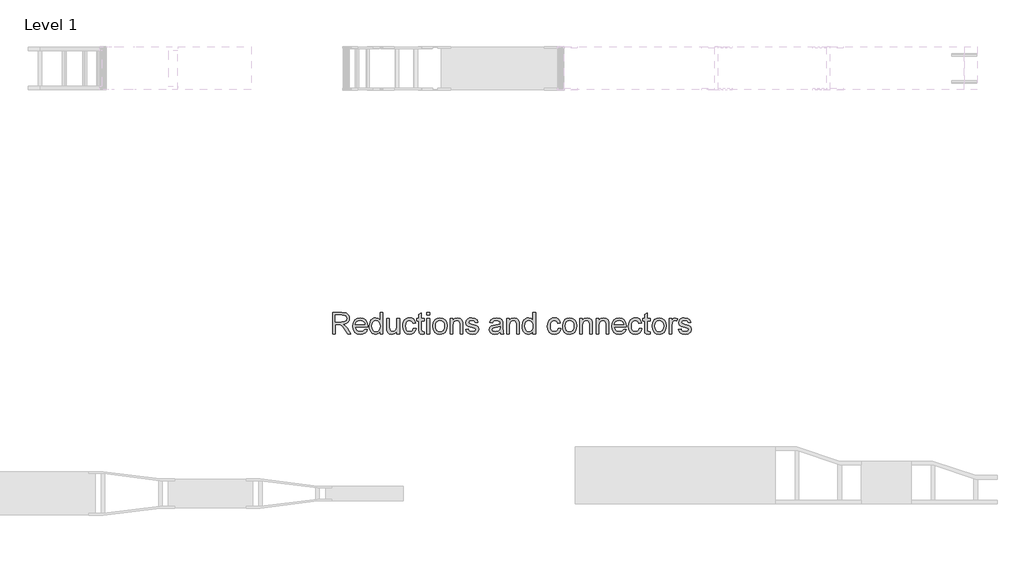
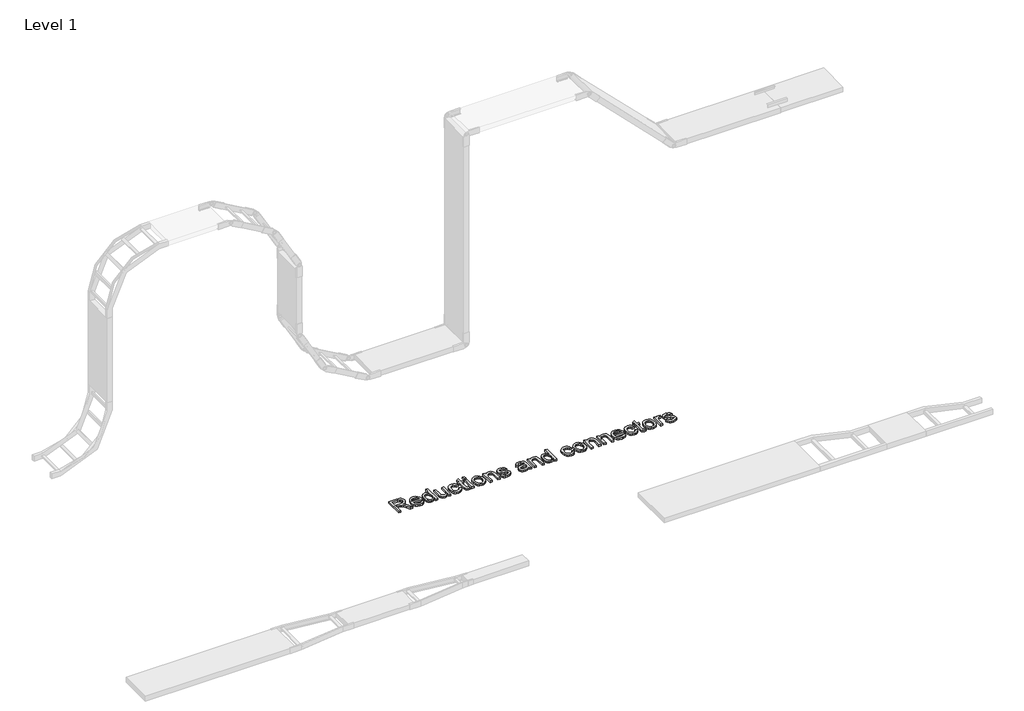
# One storey, part 64 of 106: 1 proxy.
"""IFC4 building model written with IfcOpenShell, lengths in millimetres."""

from ifc_helpers import new_model, si_unit, origin, origin_with_axes, place, context, project, spatial, polyline, outline, extrude, element, save

model = new_model("IFC4")

# Units and contexts
model_context = context("Model", 3, world=origin())
ifc_project = project(units=[si_unit("LENGTHUNIT", "METRE", prefix="MILLI")], contexts=[model_context])

# Site, building, storey
site = spatial("IfcSite", under=ifc_project)
building = spatial("IfcBuilding", under=site)
storey = spatial("IfcBuildingStorey", under=building, Name="Level 1", Elevation=0.0)

# Proxy
placement = place(None, origin())
element("IfcBuildingElementProxy", 1, Name="150mm Arial 2", ObjectType="150mm Arial 2", at=placement, inside=storey, context=model_context, shape_type="SweptSolid", body=[
    extrude(outline(polyline([(41668.5420892, 54347.8476348), (41668.5420892, 54498.5321), (41733.4732613, 54498.5321), (41763.6211908, 54494.467004), (41772.9010141, 54488.8384094), (41780.1023042, 54480.0828179), (41784.7238218, 54469.2257006), (41786.2643276, 54457.2925283), (41783.7121463, 54442.4484898), (41776.0556023, 54430.1428371), (41763.0647693, 54421.1205312), (41744.5097212, 54416.1265331), (41755.2150872, 54408.0699174), (41770.48219, 54388.6825362), (41795.6085303, 54347.8476348), (41773.7195516, 54347.8476348), (41754.1114412, 54379.0808162), (41739.9479844, 54399.7557843), (41729.9967765, 54409.5230513), (41721.0388499, 54413.1099007), (41710.1127546, 54413.7720883), (41687.3776473, 54413.7720883), (41687.3776473, 54347.8476348), (41668.5420892, 54347.8476348)]), holes=[polyline([(41687.3776473, 54432.6076465), (41729.536924, 54432.6076465), (41751.0396266, 54435.2747909), (41763.2533088, 54443.8096532), (41767.4287695, 54456.5935526), (41765.4376082, 54465.7814054), (41759.4641243, 54473.1850305), (41749.186421, 54478.068664), (41734.2826017, 54479.6965419), (41687.3776473, 54479.6965419), (41687.3776473, 54432.6076465)])]), origin_with_axes(), (0.0, 0.0, 1.0), 15.0),
    extrude(outline(polyline([(41894.3480578, 54380.8098615), (41912.815734, 54378.4554168), (41906.1616684, 54364.5402803), (41895.5436743, 54354.1384169), (41881.200875, 54347.6544967), (41863.3723938, 54345.49319), (41841.2718829, 54349.2225937), (41824.2665377, 54360.4108049), (41813.4232159, 54378.3312566), (41809.8087753, 54402.2573819), (41813.4600041, 54426.988249), (41824.4136905, 54445.4835163), (41841.1891095, 54457.0166168), (41862.305536, 54460.8609837), (41882.7643735, 54457.0258139), (41899.1121296, 54445.5203045), (41909.8312913, 54427.0618254), (41913.4043452, 54402.3677465), (41913.2939806, 54397.2909749), (41828.6443335, 54397.2909749), (41831.9046876, 54383.1918975), (41839.4784582, 54372.8268223), (41850.409152, 54366.4532667), (41863.7402758, 54364.3287482), (41882.207952, 54368.2650855), (41894.3480578, 54380.8098615)]), holes=[polyline([(41828.6443335, 54416.1265331), (41894.568787, 54416.1265331), (41892.0212042, 54426.0777411), (41887.0272061, 54433.1962577), (41876.0459285, 54439.8181336), (41862.2319596, 54442.0254255), (41849.5354323, 54440.2641905), (41839.0369998, 54434.9804853), (41831.7391407, 54426.7445272), (41828.6443335, 54416.1265331)])]), origin_with_axes(), (0.0, 0.0, 1.0), 15.0),
    extrude(outline(polyline([(42000.5188016, 54347.8476348), (42000.5188016, 54365.6163351), (41988.056799, 54350.5239763), (41970.8307246, 54345.49319), (41958.6538306, 54347.3142059), (41947.5070061, 54352.7772535), (41938.0708329, 54361.5006553), (41931.0258927, 54373.1027337), (41926.6388999, 54387.1144392), (41925.176569, 54403.0667223), (41930.5660402, 54433.0491049), (41937.2982807, 54444.9408904), (41946.7160598, 54453.6872848), (41958.1066061, 54459.067559), (41970.7571482, 54460.8609837), (41988.1211784, 54455.7290299), (42000.5188016, 54442.3933075), (42000.5188016, 54498.5321), (42019.3543598, 54498.5321), (42019.3543598, 54347.8476348), (42000.5188016, 54347.8476348)]), holes=[polyline([(41944.0121271, 54403.1402987), (41946.1366457, 54386.1027638), (41952.5102012, 54373.9856505), (41961.7716305, 54366.7429738), (41972.55977, 54364.3287482), (41983.343311, 54366.6326092), (41992.3702154, 54373.5441921), (41998.4816551, 54385.1922558), (42000.5188016, 54401.7055589), (41998.4448669, 54419.7593678), (41992.2230626, 54432.2765527), (41982.9662319, 54439.5882073), (41971.7872178, 54442.0254255), (41960.8887137, 54439.6847764), (41951.9583782, 54432.6628288), (41945.9986899, 54420.6008979), (41944.0121271, 54403.1402987)])]), origin_with_axes(), (0.0, 0.0, 1.0), 15.0),
    extrude(outline(polyline([(42118.2410401, 54347.8476348), (42118.2410401, 54366.8671339), (42103.4889721, 54350.836676), (42084.2487437, 54345.49319), (42066.5352256, 54349.2455864), (42054.3215434, 54358.6633654), (42048.711343, 54372.5325167), (42047.607697, 54390.0436996), (42047.607697, 54458.5065389), (42066.4432551, 54458.5065389), (42066.4432551, 54398.9096557), (42067.5836893, 54379.7062156), (42075.0332997, 54368.4306324), (42089.0679978, 54364.3287482), (42104.7949531, 54368.5226029), (42115.1876195, 54379.9453389), (42118.2410401, 54400.9330067), (42118.2410401, 54458.5065389), (42137.0765982, 54458.5065389), (42137.0765982, 54347.8476348), (42118.2410401, 54347.8476348)])), origin_with_axes(), (0.0, 0.0, 1.0), 15.0),
    extrude(outline(polyline([(42233.6088338, 54387.8731959), (42252.4443919, 54385.5187511), (42247.1928764, 54368.7663247), (42237.3244419, 54356.1065856), (42223.7679904, 54348.1465389), (42207.4524239, 54345.49319), (42187.4166507, 54349.1950026), (42171.7494763, 54360.3004403), (42161.6373199, 54378.3220596), (42158.2666011, 54402.7724167), (42159.7059394, 54419.5340401), (42164.0239544, 54434.0607803), (42171.2896238, 54445.7916175), (42181.5719255, 54454.1655314), (42193.8729797, 54459.1871206), (42207.1949065, 54460.8609837), (42223.1104013, 54458.5617212), (42235.8345198, 54451.6639338), (42244.9625918, 54440.5355035), (42250.0899471, 54425.5443122), (42231.254389, 54423.1898674), (42222.5171916, 54437.2981419), (42207.3420593, 54442.0254255), (42195.1697638, 54439.6985719), (42185.5082629, 54432.7180111), (42179.2036852, 54420.7066639), (42177.1021593, 54403.2874515), (42179.1576999, 54385.6337142), (42185.3243219, 54373.5809803), (42194.8110788, 54366.6418062), (42206.8270245, 54364.3287482), (42216.5804959, 54365.772685), (42224.5773308, 54370.1044955), (42230.3944648, 54377.4345442), (42233.6088338, 54387.8731959)])), origin_with_axes(), (0.0, 0.0, 1.0), 15.0),
    extrude(outline(polyline([(42308.9510664, 54363.556196), (42311.3055111, 54347.2958118), (42297.2156307, 54345.49319), (42281.4334931, 54348.620187), (42273.5608184, 54356.8239555), (42271.2799501, 54378.1978994), (42271.2799501, 54439.6709808), (42257.1532814, 54439.6709808), (42257.1532814, 54458.5065389), (42271.2799501, 54458.5065389), (42271.2799501, 54485.3987128), (42290.1155082, 54496.4719608), (42290.1155082, 54458.5065389), (42308.9510664, 54458.5065389), (42308.9510664, 54439.6709808), (42290.1155082, 54439.6709808), (42290.1155082, 54378.7497224), (42291.1087896, 54369.0376377), (42294.3277571, 54365.597941), (42300.7472979, 54364.3287482), (42308.9510664, 54363.556196)])), origin_with_axes(), (0.0, 0.0, 1.0), 15.0),
    extrude(outline(polyline([(42327.7866245, 54479.6965419), (42327.7866245, 54498.5321), (42346.6221827, 54498.5321), (42346.6221827, 54479.6965419), (42327.7866245, 54479.6965419)])), origin_with_axes(), (0.0, 0.0, 1.0), 15.0),
    extrude(outline(polyline([(42327.7866245, 54347.8476348), (42327.7866245, 54458.5065389), (42346.6221827, 54458.5065389), (42346.6221827, 54347.8476348), (42327.7866245, 54347.8476348)])), origin_with_axes(), (0.0, 0.0, 1.0), 15.0),
    extrude(outline(polyline([(42370.1666304, 54403.1770869), (42374.2409235, 54429.8577286), (42386.4638027, 54448.6105133), (42401.5653587, 54457.7983661), (42419.6467587, 54460.8609837), (42439.4342115, 54457.13158), (42455.2393417, 54445.9433688), (42465.5998184, 54428.179267), (42469.0533107, 54404.7221912), (42467.5266004, 54385.693495), (42462.9464695, 54371.2081415), (42455.4462754, 54360.3602211), (42445.1593751, 54352.2438246), (42432.9410943, 54347.1808487), (42419.6467587, 54345.49319), (42399.6201826, 54349.2087982), (42383.8334465, 54360.3556226), (42373.5833344, 54378.492205), (42370.1666304, 54403.1770869)]), holes=[polyline([(42389.0021885, 54403.2138751), (42391.1818893, 54386.1671431), (42397.7209918, 54374.0224387), (42407.5618352, 54366.7521708), (42419.6467587, 54364.3287482), (42431.6765, 54366.7659664), (42441.4989492, 54374.077621), (42448.0380517, 54386.3832738), (42450.2177525, 54403.8024862), (42448.0242561, 54420.3525775), (42441.4437669, 54432.331735), (42431.6075221, 54439.6020029), (42419.6467587, 54442.0254255), (42407.5618352, 54439.6112), (42397.7209918, 54432.3685232), (42391.1818893, 54420.25141), (42389.0021885, 54403.2138751)])]), origin_with_axes(), (0.0, 0.0, 1.0), 15.0),
    extrude(outline(polyline([(42490.2433136, 54347.8476348), (42490.2433136, 54458.5065389), (42509.0788717, 54458.5065389), (42509.0788717, 54443.0554951), (42523.4814519, 54456.4096116), (42543.1447445, 54460.8609837), (42560.931839, 54457.2741342), (42573.0719448, 54447.8563552), (42578.7189334, 54434.0055981), (42579.7122148, 54415.7954393), (42579.7122148, 54347.8476348), (42560.8766567, 54347.8476348), (42560.8766567, 54413.2570535), (42558.7061529, 54429.9221079), (42551.0358133, 54438.7328817), (42538.1047612, 54442.0254255), (42527.0728998, 54440.1768185), (42517.6689163, 54434.6309974), (42511.2263829, 54423.9164343), (42509.0788717, 54406.5616012), (42509.0788717, 54347.8476348), (42490.2433136, 54347.8476348)])), origin_with_axes(), (0.0, 0.0, 1.0), 15.0),
    extrude(outline(polyline([(42598.547773, 54380.8098615), (42617.3833311, 54383.1643063), (42620.3539782, 54375.1076906), (42626.1021344, 54369.1847905), (42646.0781267, 54364.3287482), (42665.2815669, 54368.7801203), (42671.5355608, 54379.227969), (42669.9628653, 54384.028829), (42665.2447787, 54387.6892549), (42645.8573975, 54393.060332), (42617.4936957, 54402.275776), (42605.1144666, 54413.0363243), (42600.9022177, 54428.2298507), (42604.2867321, 54442.2645488), (42613.5205702, 54452.988309), (42625.4951291, 54458.5617212), (42641.700331, 54460.8609837), (42664.6193793, 54457.1637696), (42679.1875063, 54447.1573794), (42685.6622294, 54430.2532017), (42666.8266713, 54427.8987569), (42659.7449429, 54438.2914233), (42643.171859, 54442.0254255), (42625.1456412, 54438.4569702), (42619.7377759, 54430.1428371), (42621.9818561, 54424.6613954), (42629.0084022, 54420.5043288), (42645.2319982, 54416.4944151), (42672.8783301, 54407.628459), (42685.7174117, 54397.5852805), (42690.371119, 54381.2145317), (42684.9080713, 54363.188314), (42669.1443278, 54350.1101091), (42645.8206093, 54345.49319), (42626.8287013, 54347.7188761), (42612.9687472, 54354.3959343), (42603.716515, 54365.4507882), (42598.547773, 54380.8098615)])), origin_with_axes(), (0.0, 0.0, 1.0), 15.0),
    extrude(outline(polyline([(42841.0555842, 54361.9743034), (42822.7902431, 54349.2087982), (42802.6119157, 54345.49319), (42786.8711648, 54347.7280731), (42775.2598894, 54354.4327225), (42768.099986, 54364.6138567), (42765.7133516, 54377.2781944), (42769.3185951, 54392.1774152), (42778.7915565, 54402.9931459), (42791.980126, 54409.1735634), (42808.2772984, 54412.0062547), (42840.9452196, 54418.4809779), (42841.0555842, 54422.6748326), (42839.7588002, 54431.0809362), (42835.8684481, 54436.580772), (42827.1680389, 54440.6642622), (42815.0463271, 54442.0254255), (42795.9900398, 54438.4017879), (42786.9033545, 54425.5443122), (42768.0677963, 54427.8987569), (42776.2163825, 54446.2928567), (42792.6239195, 54457.0717991), (42817.4743483, 54460.8609837), (42840.3014261, 54457.5132575), (42853.19569, 54449.107154), (42858.9714374, 54436.3232546), (42859.8911423, 54419.8421412), (42859.8911423, 54396.4080581), (42860.8476355, 54363.6849547), (42864.6000319, 54347.8476348), (42845.7644737, 54347.8476348), (42841.0555842, 54361.9743034)]), holes=[polyline([(42841.0555842, 54399.6454197), (42810.6685314, 54393.8696724), (42794.4633295, 54390.8162518), (42787.1240837, 54385.8498449), (42784.5489097, 54378.6025696), (42790.1591102, 54368.4122383), (42806.6218294, 54364.3287482), (42825.6781168, 54368.8353026), (42837.9653754, 54379.7430038), (42840.9452196, 54394.3111308), (42841.0555842, 54399.6454197)])]), origin_with_axes(), (0.0, 0.0, 1.0), 15.0),
    extrude(outline(polyline([(42885.7900348, 54347.8476348), (42885.7900348, 54458.5065389), (42904.625593, 54458.5065389), (42904.625593, 54443.0554951), (42919.0281731, 54456.4096116), (42938.6914657, 54460.8609837), (42956.4785602, 54457.2741342), (42968.618666, 54447.8563552), (42974.2656546, 54434.0055981), (42975.258936, 54415.7954393), (42975.258936, 54347.8476348), (42956.4233779, 54347.8476348), (42956.4233779, 54413.2570535), (42954.2528741, 54429.9221079), (42946.5825345, 54438.7328817), (42933.6514824, 54442.0254255), (42922.619621, 54440.1768185), (42913.2156375, 54434.6309974), (42906.7731041, 54423.9164343), (42904.625593, 54406.5616012), (42904.625593, 54347.8476348), (42885.7900348, 54347.8476348)])), origin_with_axes(), (0.0, 0.0, 1.0), 15.0),
    extrude(outline(polyline([(43069.4367268, 54347.8476348), (43069.4367268, 54365.6163351), (43056.9747242, 54350.5239763), (43039.7486498, 54345.49319), (43027.5717557, 54347.3142059), (43016.4249313, 54352.7772535), (43006.9887581, 54361.5006553), (42999.9438179, 54373.1027337), (42995.5568251, 54387.1144392), (42994.0944942, 54403.0667223), (42999.4839654, 54433.0491049), (43006.2162059, 54444.9408904), (43015.633985, 54453.6872848), (43027.0245313, 54459.067559), (43039.6750734, 54460.8609837), (43057.0391036, 54455.7290299), (43069.4367268, 54442.3933075), (43069.4367268, 54498.5321), (43088.2722849, 54498.5321), (43088.2722849, 54347.8476348), (43069.4367268, 54347.8476348)]), holes=[polyline([(43012.9300523, 54403.1402987), (43015.0545709, 54386.1027638), (43021.4281264, 54373.9856505), (43030.6895557, 54366.7429738), (43041.4776952, 54364.3287482), (43052.2612361, 54366.6326092), (43061.2881406, 54373.5441921), (43067.3995802, 54385.1922558), (43069.4367268, 54401.7055589), (43067.362792, 54419.7593678), (43061.1409878, 54432.2765527), (43051.8841571, 54439.5882073), (43040.705143, 54442.0254255), (43029.8066389, 54439.6847764), (43020.8763034, 54432.6628288), (43014.9166151, 54420.6008979), (43012.9300523, 54403.1402987)])]), origin_with_axes(), (0.0, 0.0, 1.0), 15.0),
    extrude(outline(polyline([(43246.0200845, 54387.8731959), (43264.8556426, 54385.5187511), (43259.6041272, 54368.7663247), (43249.7356926, 54356.1065856), (43236.1792411, 54348.1465389), (43219.8636746, 54345.49319), (43199.8279015, 54349.1950026), (43184.160727, 54360.3004403), (43174.0485706, 54378.3220596), (43170.6778519, 54402.7724167), (43172.1171902, 54419.5340401), (43176.4352051, 54434.0607803), (43183.7008745, 54445.7916175), (43193.9831763, 54454.1655314), (43206.2842305, 54459.1871206), (43219.6061572, 54460.8609837), (43235.521652, 54458.5617212), (43248.2457706, 54451.6639338), (43257.3738426, 54440.5355035), (43262.5011979, 54425.5443122), (43243.6656397, 54423.1898674), (43234.9284423, 54437.2981419), (43219.75331, 54442.0254255), (43207.5810145, 54439.6985719), (43197.9195136, 54432.7180111), (43191.6149359, 54420.7066639), (43189.51341, 54403.2874515), (43191.5689507, 54385.6337142), (43197.7355726, 54373.5809803), (43207.2223296, 54366.6418062), (43219.2382752, 54364.3287482), (43228.9917466, 54365.772685), (43236.9885815, 54370.1044955), (43242.8057155, 54377.4345442), (43246.0200845, 54387.8731959)])), origin_with_axes(), (0.0, 0.0, 1.0), 15.0),
    extrude(outline(polyline([(43276.6278665, 54403.1770869), (43280.7021596, 54429.8577286), (43292.9250389, 54448.6105133), (43308.0265948, 54457.7983661), (43326.1079948, 54460.8609837), (43345.8954476, 54457.13158), (43361.7005779, 54445.9433688), (43372.0610546, 54428.179267), (43375.5145468, 54404.7221912), (43373.9878365, 54385.693495), (43369.4077057, 54371.2081415), (43361.9075115, 54360.3602211), (43351.6206112, 54352.2438246), (43339.4023304, 54347.1808487), (43326.1079948, 54345.49319), (43306.0814187, 54349.2087982), (43290.2946826, 54360.3556226), (43280.0445705, 54378.492205), (43276.6278665, 54403.1770869)]), holes=[polyline([(43295.4634246, 54403.2138751), (43297.6431255, 54386.1671431), (43304.1822279, 54374.0224387), (43314.0230713, 54366.7521708), (43326.1079948, 54364.3287482), (43338.1377361, 54366.7659664), (43347.9601853, 54374.077621), (43354.4992878, 54386.3832738), (43356.6789886, 54403.8024862), (43354.4854922, 54420.3525775), (43347.905003, 54432.331735), (43338.0687582, 54439.6020029), (43326.1079948, 54442.0254255), (43314.0230713, 54439.6112), (43304.1822279, 54432.3685232), (43297.6431255, 54420.25141), (43295.4634246, 54403.2138751)])]), origin_with_axes(), (0.0, 0.0, 1.0), 15.0),
    extrude(outline(polyline([(43396.7045497, 54347.8476348), (43396.7045497, 54458.5065389), (43415.5401079, 54458.5065389), (43415.5401079, 54443.0554951), (43429.942688, 54456.4096116), (43449.6059806, 54460.8609837), (43467.3930751, 54457.2741342), (43479.5331809, 54447.8563552), (43485.1801695, 54434.0055981), (43486.1734509, 54415.7954393), (43486.1734509, 54347.8476348), (43467.3378928, 54347.8476348), (43467.3378928, 54413.2570535), (43465.167389, 54429.9221079), (43457.4970494, 54438.7328817), (43444.5659973, 54442.0254255), (43433.5341359, 54440.1768185), (43424.1301524, 54434.6309974), (43417.687619, 54423.9164343), (43415.5401079, 54406.5616012), (43415.5401079, 54347.8476348), (43396.7045497, 54347.8476348)])), origin_with_axes(), (0.0, 0.0, 1.0), 15.0),
    extrude(outline(polyline([(43512.0723434, 54347.8476348), (43512.0723434, 54458.5065389), (43530.9079015, 54458.5065389), (43530.9079015, 54443.0554951), (43545.3104817, 54456.4096116), (43564.9737743, 54460.8609837), (43582.7608688, 54457.2741342), (43594.9009746, 54447.8563552), (43600.5479632, 54434.0055981), (43601.5412446, 54415.7954393), (43601.5412446, 54347.8476348), (43582.7056865, 54347.8476348), (43582.7056865, 54413.2570535), (43580.5351827, 54429.9221079), (43572.8648431, 54438.7328817), (43559.933791, 54442.0254255), (43548.9019296, 54440.1768185), (43539.4979461, 54434.6309974), (43533.0554127, 54423.9164343), (43530.9079015, 54406.5616012), (43530.9079015, 54347.8476348), (43512.0723434, 54347.8476348)])), origin_with_axes(), (0.0, 0.0, 1.0), 15.0),
    extrude(outline(polyline([(43704.9160853, 54380.8098615), (43723.3837614, 54378.4554168), (43716.7296958, 54364.5402803), (43706.1117017, 54354.1384169), (43691.7689025, 54347.6544967), (43673.9404213, 54345.49319), (43651.8399104, 54349.2225937), (43634.8345652, 54360.4108049), (43623.9912434, 54378.3312566), (43620.3768028, 54402.2573819), (43624.0280316, 54426.988249), (43634.981718, 54445.4835163), (43651.757137, 54457.0166168), (43672.8735635, 54460.8609837), (43693.3324009, 54457.0258139), (43709.6801571, 54445.5203045), (43720.3993187, 54427.0618254), (43723.9723726, 54402.3677465), (43723.862008, 54397.2909749), (43639.2123609, 54397.2909749), (43642.4727151, 54383.1918975), (43650.0464857, 54372.8268223), (43660.9771795, 54366.4532667), (43674.3083033, 54364.3287482), (43692.7759794, 54368.2650855), (43704.9160853, 54380.8098615)]), holes=[polyline([(43639.2123609, 54416.1265331), (43705.1368145, 54416.1265331), (43702.5892316, 54426.0777411), (43697.5952336, 54433.1962577), (43686.613956, 54439.8181336), (43672.7999871, 54442.0254255), (43660.1034597, 54440.2641905), (43649.6050273, 54434.9804853), (43642.3071682, 54426.7445272), (43639.2123609, 54416.1265331)])]), origin_with_axes(), (0.0, 0.0, 1.0), 15.0),
    extrude(outline(polyline([(43813.4412738, 54387.8731959), (43832.276832, 54385.5187511), (43827.0253165, 54368.7663247), (43817.156882, 54356.1065856), (43803.6004305, 54348.1465389), (43787.284864, 54345.49319), (43767.2490908, 54349.1950026), (43751.5819164, 54360.3004403), (43741.46976, 54378.3220596), (43738.0990412, 54402.7724167), (43739.5383795, 54419.5340401), (43743.8563945, 54434.0607803), (43751.1220639, 54445.7916175), (43761.4043656, 54454.1655314), (43773.7054198, 54459.1871206), (43787.0273466, 54460.8609837), (43802.9428414, 54458.5617212), (43815.6669599, 54451.6639338), (43824.7950319, 54440.5355035), (43829.9223872, 54425.5443122), (43811.0868291, 54423.1898674), (43802.3496317, 54437.2981419), (43787.1744994, 54442.0254255), (43775.0022039, 54439.6985719), (43765.340703, 54432.7180111), (43759.0361253, 54420.7066639), (43756.9345994, 54403.2874515), (43758.99014, 54385.6337142), (43765.156762, 54373.5809803), (43774.6435189, 54366.6418062), (43786.6594646, 54364.3287482), (43796.412936, 54365.772685), (43804.4097709, 54370.1044955), (43810.2269049, 54377.4345442), (43813.4412738, 54387.8731959)])), origin_with_axes(), (0.0, 0.0, 1.0), 15.0),
    extrude(outline(polyline([(43888.7835065, 54363.556196), (43891.1379512, 54347.2958118), (43877.0480708, 54345.49319), (43861.2659332, 54348.620187), (43853.3932585, 54356.8239555), (43851.1123901, 54378.1978994), (43851.1123901, 54439.6709808), (43836.9857215, 54439.6709808), (43836.9857215, 54458.5065389), (43851.1123901, 54458.5065389), (43851.1123901, 54485.3987128), (43869.9479483, 54496.4719608), (43869.9479483, 54458.5065389), (43888.7835065, 54458.5065389), (43888.7835065, 54439.6709808), (43869.9479483, 54439.6709808), (43869.9479483, 54378.7497224), (43870.9412297, 54369.0376377), (43874.1601971, 54365.597941), (43880.579738, 54364.3287482), (43888.7835065, 54363.556196)])), origin_with_axes(), (0.0, 0.0, 1.0), 15.0),
    extrude(outline(polyline([(43902.9101751, 54403.1770869), (43906.9844682, 54429.8577286), (43919.2073475, 54448.6105133), (43934.3089034, 54457.7983661), (43952.3903034, 54460.8609837), (43972.1777562, 54457.13158), (43987.9828865, 54445.9433688), (43998.3433631, 54428.179267), (44001.7968554, 54404.7221912), (44000.2701451, 54385.693495), (43995.6900143, 54371.2081415), (43988.1898201, 54360.3602211), (43977.9029198, 54352.2438246), (43965.684639, 54347.1808487), (43952.3903034, 54345.49319), (43932.3637273, 54349.2087982), (43916.5769912, 54360.3556226), (43906.3268791, 54378.492205), (43902.9101751, 54403.1770869)]), holes=[polyline([(43921.7457332, 54403.2138751), (43923.925434, 54386.1671431), (43930.4645365, 54374.0224387), (43940.3053799, 54366.7521708), (43952.3903034, 54364.3287482), (43964.4200447, 54366.7659664), (43974.2424939, 54374.077621), (43980.7815964, 54386.3832738), (43982.9612972, 54403.8024862), (43980.7678008, 54420.3525775), (43974.1873116, 54432.331735), (43964.3510668, 54439.6020029), (43952.3903034, 54442.0254255), (43940.3053799, 54439.6112), (43930.4645365, 54432.3685232), (43923.925434, 54420.25141), (43921.7457332, 54403.2138751)])]), origin_with_axes(), (0.0, 0.0, 1.0), 15.0),
    extrude(outline(polyline([(44022.9868583, 54347.8476348), (44022.9868583, 54458.5065389), (44039.4679717, 54458.5065389), (44039.4679717, 54442.1357901), (44051.1666191, 54457.2189519), (44062.938843, 54460.8609837), (44081.8479775, 54455.0484482), (44075.5571954, 54438.1626646), (44062.3134436, 54442.0254255), (44051.6632598, 54438.3098174), (44044.875837, 54428.0091215), (44041.8224164, 54406.0097782), (44041.8224164, 54347.8476348), (44022.9868583, 54347.8476348)])), origin_with_axes(), (0.0, 0.0, 1.0), 15.0),
    extrude(outline(polyline([(44086.5568671, 54380.8098615), (44105.3924252, 54383.1643063), (44108.3630723, 54375.1076906), (44114.1112285, 54369.1847905), (44134.0872208, 54364.3287482), (44153.290661, 54368.7801203), (44159.5446549, 54379.227969), (44157.9719594, 54384.028829), (44153.2538728, 54387.6892549), (44133.8664916, 54393.060332), (44105.5027898, 54402.275776), (44093.1235607, 54413.0363243), (44088.9113118, 54428.2298507), (44092.2958262, 54442.2645488), (44101.5296643, 54452.988309), (44113.5042232, 54458.5617212), (44129.7094251, 54460.8609837), (44152.6284734, 54457.1637696), (44167.1966004, 54447.1573794), (44173.6713235, 54430.2532017), (44154.8357654, 54427.8987569), (44147.754037, 54438.2914233), (44131.1809531, 54442.0254255), (44113.1547353, 54438.4569702), (44107.74687, 54430.1428371), (44109.9909502, 54424.6613954), (44117.0174963, 54420.5043288), (44133.2410922, 54416.4944151), (44160.8874242, 54407.628459), (44173.7265058, 54397.5852805), (44178.3802131, 54381.2145317), (44172.9171654, 54363.188314), (44157.1534219, 54350.1101091), (44133.8297034, 54345.49319), (44114.8377954, 54347.7188761), (44100.9778413, 54354.3959343), (44091.7256091, 54365.4507882), (44086.5568671, 54380.8098615)])), origin_with_axes(), (0.0, 0.0, 1.0), 15.0),
])

save(model, "model.ifc")
